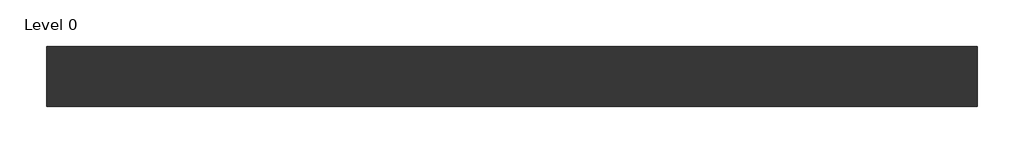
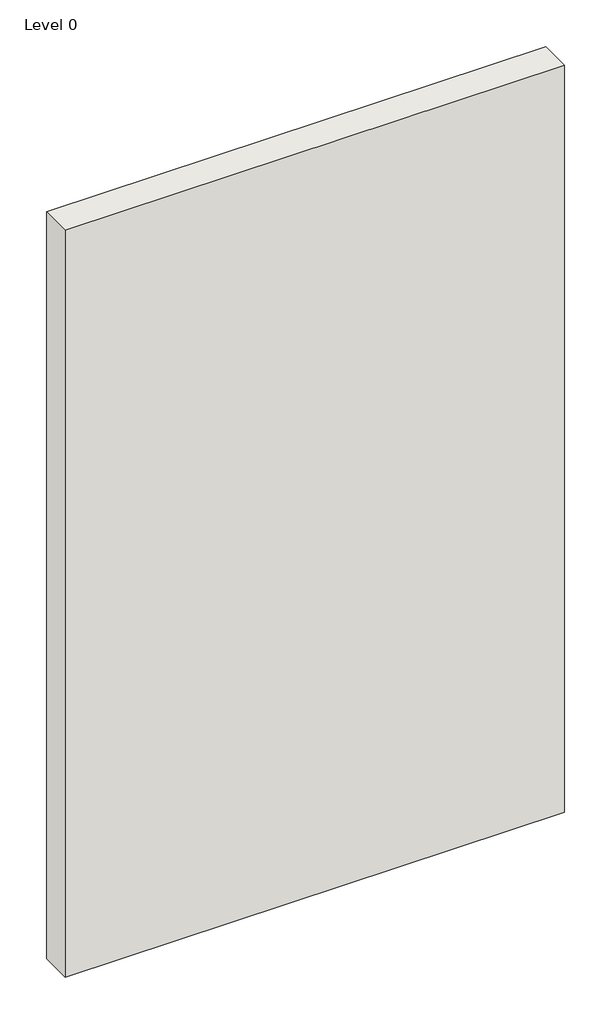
# One storey: 1 wall.
"""IFC4 building model written with IfcOpenShell, lengths in millimetres."""

from ifc_helpers import new_model, si_unit, origin, origin_with_axes, place, context, project, spatial, polyline, outline, extrude, element, save

model = new_model("IFC4")

# Units and contexts
model_context = context("Model", 3, world=origin())
ifc_project = project(units=[si_unit("LENGTHUNIT", "METRE", prefix="MILLI")], contexts=[model_context])

# Site, building, storey
site = spatial("IfcSite", under=ifc_project)
building = spatial("IfcBuilding", under=site)
storey = spatial("IfcBuildingStorey", under=building, Name="Level 0", Elevation=0.0)

# Wall
placement = place(None, origin())
element("IfcWall", 1, ObjectType="A216001 - GypWall Classic", at=placement, inside=storey, context=model_context, shape_type="SweptSolid", body=[
    extrude(outline(polyline([(1155.997948, 455.2669953), (-1944.002052, 455.2669953), (-1944.002052, 655.2669953), (1155.997948, 655.2669953), (1155.997948, 455.2669953)])), origin_with_axes(), (0.0, 0.0, 1.0), 4900.0),
])

save(model, "model.ifc")
